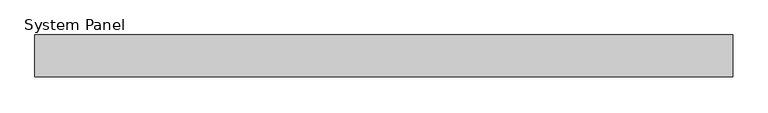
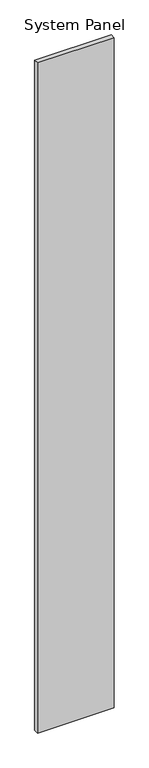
"""IFC4 building model written with IfcOpenShell, lengths in millimetres: plate geometry, System Panel : MetecnoSpan_60mm_Vertical_Plain_Surfmist."""

from ifc_helpers import new_model, si_unit, origin, origin_with_axes, place, context, project, spatial, polyline, outline, extrude, source, transform, mapped, element, save


def system_panel_77eb090d(model_context):
    return source(origin(), model_context, "Body", "SweptSolid", [
        extrude(outline(polyline([(500.0, -60.0), (-500.0, -60.0), (-500.0, 0.0), (500.0, 0.0), (500.0, -60.0)])), origin_with_axes(), (0.0, 0.0, 1.0), 9240.3821682),
    ])


if __name__ == "__main__":
    model = new_model("IFC4")
    model_context = context("Model", 3, world=origin())
    ifc_project = project(units=[si_unit("LENGTHUNIT", "METRE", prefix="MILLI")], contexts=[model_context])
    site = spatial("IfcSite", under=ifc_project)
    building = spatial("IfcBuilding", under=site)
    placement = place(None, origin())
    system_panel_shape = system_panel_77eb090d(model_context)
    element("IfcPlate", 1, ObjectType="System Panel : MetecnoSpan_60mm_Vertical_Plain_Surfmist", at=placement, inside=building, context=model_context, shape_type="MappedRepresentation", body=[
        mapped(system_panel_shape, transform((0.0, 0.0, 0.0), x_axis=(1.0, 0.0, 0.0), y_axis=(0.0, 1.0, 0.0), z_axis=(0.0, 0.0, 1.0))),
    ])
    save(model, "model.ifc")
